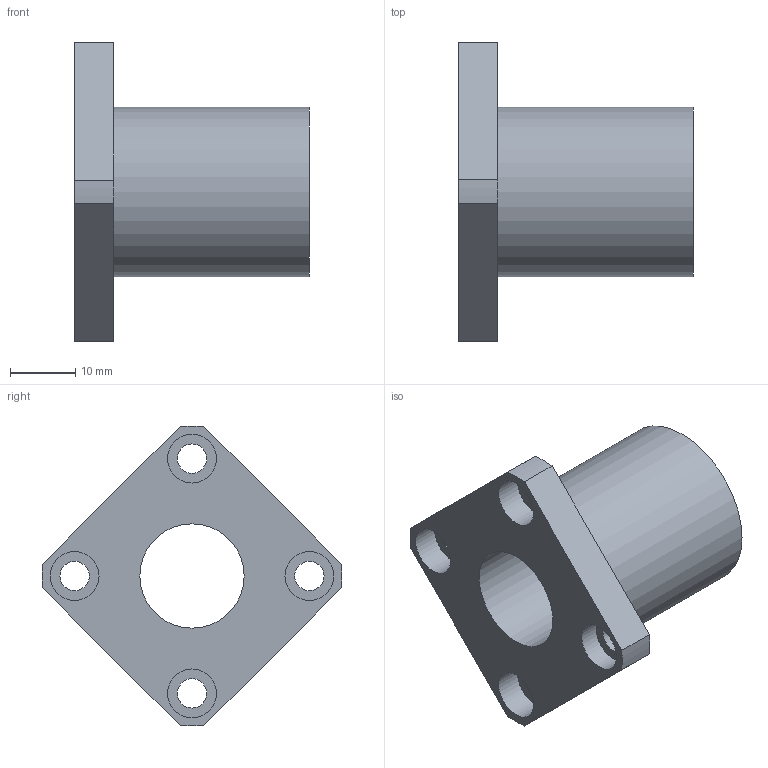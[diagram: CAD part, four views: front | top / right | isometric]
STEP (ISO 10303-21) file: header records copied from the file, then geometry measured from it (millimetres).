
FILE_DESCRIPTION( ( 'STEP AP203' ), '1' );
FILE_NAME( 'p:/temp/worker_4/temp/exporttempdir_3320_2262_Y4C9M/format_0/LMEK16UU.stp', '2020-05-07T05:46:28', ( 'License CC BY-ND 4.0' ), ( 'CADENAS' ), ' ', 'PARTsolutions', ' ' );
FILE_SCHEMA( ( 'CONFIG_CONTROL_DESIGN' ) );
Length unit declared in the file: millimetre
Products named in the file (1): _LMEK16UU
Bounding box: 36 x 45.98 x 45.98 mm (x, y, z)
Volume: 15147.1 mm3; surface area: 7443.8 mm2
Topology: 1 solids, 1 shells, 25 faces, 55 edges, 37 vertices
Faces by surface type: cylinder 14, plane 11
Full cylindrical faces by diameter (mm): 4.5 x4, 7.5 x4, 16 x1, 26 x1
Entity records: 710 total; most frequent: DIRECTION 124, CARTESIAN_POINT 106, ORIENTED_EDGE 88, AXIS2_PLACEMENT_3D 54, EDGE_LOOP 50, EDGE_CURVE 44, VERTEX_POINT 36, FACE_OUTER_BOUND 35
